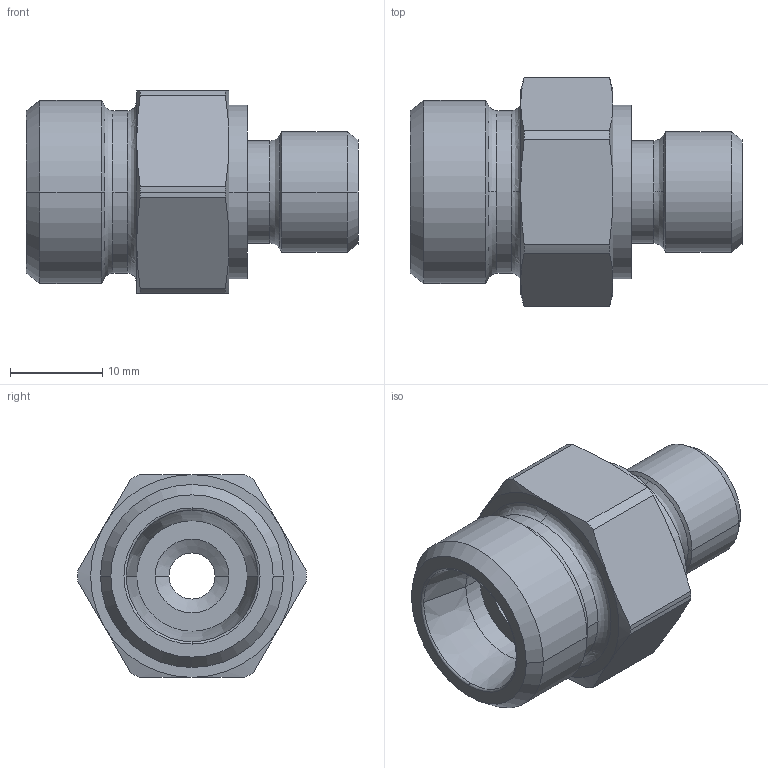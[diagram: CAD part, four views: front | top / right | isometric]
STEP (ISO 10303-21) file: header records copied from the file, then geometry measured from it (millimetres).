
FILE_DESCRIPTION((''),'2;1');
FILE_NAME('100544.stp','2007-10-30T14:23:39',(''),(''),'AutoCAD STEP 2000i','AutoCAD 2000i',', , ');
FILE_SCHEMA(('CONFIG_CONTROL_DESIGN'));
Length unit declared in the file: millimetre
Products named in the file (2): 100544.0; CHIAVE SMUSSATA#0
Assembly tree (1 placements, depth 2):
  100544.0
    CHIAVE SMUSSATA#0
Bounding box: 36 x 24.8 x 22 mm (x, y, z)
Volume: 7589 mm3; surface area: 3767.4 mm2
Topology: 1 solids, 1 shells, 79 faces, 193 edges, 121 vertices
Faces by surface type: cylinder 26, cone 26, plane 13, bspline 12, torus 2
Entity records: 2935 total; most frequent: CARTESIAN_POINT 971, DIRECTION 430, ORIENTED_EDGE 386, EDGE_CURVE 193, AXIS2_PLACEMENT_3D 192, CIRCLE 123, VERTEX_POINT 121, EDGE_LOOP 86
